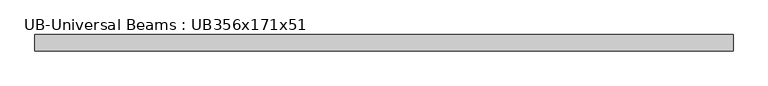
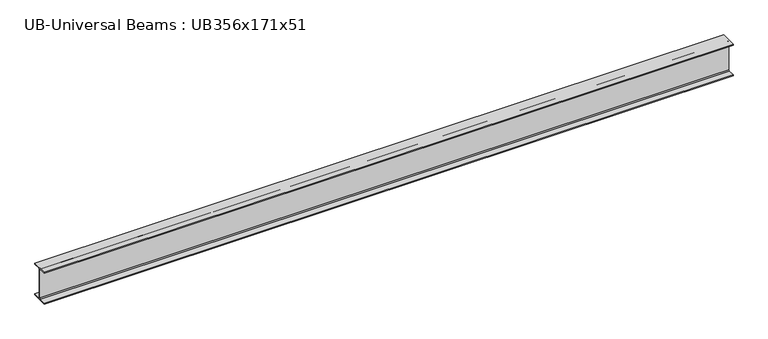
"""IFC4 building model written with IfcOpenShell, lengths in millimetres: beam geometry, UB-Universal Beams : UB356x171x51."""

from ifc_helpers import new_model, si_unit, point, frame, frame_2d, origin, place, context, project, spatial, polyline, circle_curve, trimmed, segment, composite_curve, outline, extrude, source, transform, mapped, element, save


def ub_universal_beams_ub356x171x51_a38b99de(model_context):
    return source(origin(), model_context, "Body", "SweptSolid", [
        extrude(outline(composite_curve([segment(polyline([(85.75, -166.0), (85.75, -177.5), (-85.75, -177.5), (-85.75, -166.0), (-13.9, -166.0)]), True, "CONTINUOUS"), segment(trimmed(circle_curve(frame_2d((-13.9, -155.8)), 10.2), [point((-13.9, -166.0))], [point((-3.7, -155.8))], True, "CARTESIAN"), True, "CONTINUOUS"), segment(polyline([(-3.7, -155.8), (-3.7, 155.8)]), True, "CONTINUOUS"), segment(trimmed(circle_curve(frame_2d((-13.9, 155.8)), 10.2), [point((-3.7, 155.8))], [point((-13.9, 166.0))], True, "CARTESIAN"), True, "CONTINUOUS"), segment(polyline([(-13.9, 166.0), (-85.75, 166.0), (-85.75, 177.5), (85.75, 177.5), (85.75, 166.0), (13.9, 166.0)]), True, "CONTINUOUS"), segment(trimmed(circle_curve(frame_2d((13.9, 155.8)), 10.2), [point((13.9, 166.0))], [point((3.7, 155.8))], True, "CARTESIAN"), True, "CONTINUOUS"), segment(polyline([(3.7, 155.8), (3.7, -155.8)]), True, "CONTINUOUS"), segment(trimmed(circle_curve(frame_2d((13.9, -155.8)), 10.2), [point((3.7, -155.8))], [point((13.9, -166.0))], True, "CARTESIAN"), True, "CONTINUOUS"), segment(polyline([(13.9, -166.0), (85.75, -166.0)]), True, "CONTINUOUS")], self_intersect=False)), frame((-3643.3, 0.0, 0.0), z_axis=(1.0, 0.0, 0.0), x_axis=(0.0, 1.0, 0.0)), (0.0, 0.0, 1.0), 7286.6),
    ])


if __name__ == "__main__":
    model = new_model("IFC4")
    model_context = context("Model", 3, world=origin())
    ifc_project = project(units=[si_unit("LENGTHUNIT", "METRE", prefix="MILLI")], contexts=[model_context])
    site = spatial("IfcSite", under=ifc_project)
    building = spatial("IfcBuilding", under=site)
    placement = place(None, origin())
    ub_universal_beams_ub356x171x51_shape = ub_universal_beams_ub356x171x51_a38b99de(model_context)
    element("IfcBeam", 1, ObjectType="UB-Universal Beams : UB356x171x51", at=placement, inside=building, context=model_context, shape_type="MappedRepresentation", body=[
        mapped(ub_universal_beams_ub356x171x51_shape, transform((0.0, 0.0, 0.0), x_axis=(1.0, 0.0, 0.0), y_axis=(0.0, 1.0, 0.0), z_axis=(0.0, 0.0, 1.0))),
    ])
    save(model, "model.ifc")
